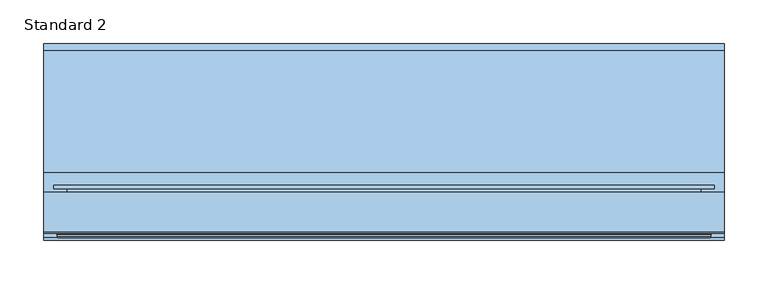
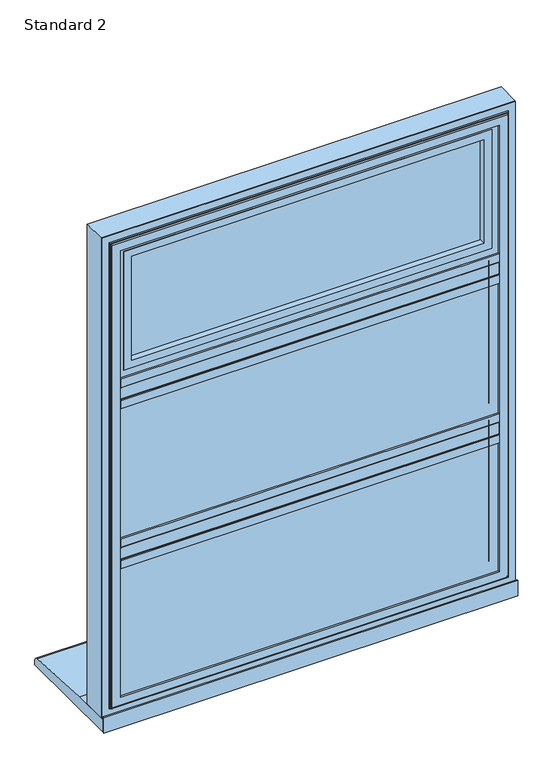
"""IFC4 building model written with IfcOpenShell, lengths in millimetres: window geometry, SMARTS_AlithermHeritage : Standard 2."""

from ifc_helpers import new_model, si_unit, point, frame, frame_2d, origin, place, context, project, spatial, polyline, circle_curve, ellipse_curve, trimmed, segment, composite_curve, outline, extrude, faceted_brep, source, transform, mapped, element, save
from ifc_brep_helpers import plane_surface, cylinder_surface, revolved_surface, advanced_brep


def standard_2_61d9b5e6(model_context):
    return source(origin(), model_context, "Body", "SolidModel", [
        extrude(outline(polyline([(372.3058544, 95.2798432), (372.3058544, 47.279476), (-372.3058544, 47.279476), (-372.3058544, 95.2798432), (372.3058544, 95.2798432)])), frame((0.0, 0.0, 939.6391878), z_axis=(0.0, 0.0, 1.0), x_axis=(1.0, 0.0, 0.0)), (0.0, 0.0, 1.0), 27.3882911),
        extrude(outline(composite_curve([segment(polyline([(47.279476, 924.3333333), (43.2798432, 924.3333333), (43.2798432, 940.3333333)]), True, "CONTINUOUS"), segment(trimmed(circle_curve(frame_2d((44.2798432, 940.3333333)), 1.0), [point((43.2798432, 940.3333333))], [point((44.2798432, 941.3333333))], False, "CARTESIAN"), True, "CONTINUOUS"), segment(polyline([(44.2798432, 941.3333333), (45.7798432, 941.3333333), (45.7798432, 965.3333333), (44.2798432, 965.3333333)]), True, "CONTINUOUS"), segment(trimmed(circle_curve(frame_2d((44.2798432, 966.3333333)), 1.0), [point((44.2798432, 965.3333333))], [point((43.2798432, 966.3333333))], False, "CARTESIAN"), True, "CONTINUOUS"), segment(polyline([(43.2798432, 966.3333333), (43.2798432, 982.3333333), (47.279476, 982.3333333), (47.279476, 924.3333333)]), True, "CONTINUOUS")], self_intersect=False)), frame((-357.0, 0.0, 0.0), z_axis=(1.0, 0.0, 0.0), x_axis=(0.0, 1.0, 0.0)), (0.0, 0.0, 1.0), 714.0),
        extrude(outline(polyline([(372.3058544, 95.2798432), (372.3058544, 47.279476), (-372.3058544, 47.279476), (-372.3058544, 95.2798432), (372.3058544, 95.2798432)])), frame((0.0, 0.0, 1257.9725211), z_axis=(0.0, 0.0, 1.0), x_axis=(1.0, 0.0, 0.0)), (0.0, 0.0, 1.0), 27.3882911),
        extrude(outline(composite_curve([segment(polyline([(47.279476, 1242.6666667), (43.2798432, 1242.6666667), (43.2798432, 1258.6666667)]), True, "CONTINUOUS"), segment(trimmed(circle_curve(frame_2d((44.2798432, 1258.6666667)), 1.0), [point((43.2798432, 1258.6666667))], [point((44.2798432, 1259.6666667))], False, "CARTESIAN"), True, "CONTINUOUS"), segment(polyline([(44.2798432, 1259.6666667), (45.7798432, 1259.6666667), (45.7798432, 1283.6666667), (44.2798432, 1283.6666667)]), True, "CONTINUOUS"), segment(trimmed(circle_curve(frame_2d((44.2798432, 1284.6666667)), 1.0), [point((44.2798432, 1283.6666667))], [point((43.2798432, 1284.6666667))], False, "CARTESIAN"), True, "CONTINUOUS"), segment(polyline([(43.2798432, 1284.6666667), (43.2798432, 1300.6666667), (47.279476, 1300.6666667), (47.279476, 1242.6666667)]), True, "CONTINUOUS")], self_intersect=False)), frame((-357.0, 0.0, 0.0), z_axis=(1.0, 0.0, 0.0), x_axis=(0.0, 1.0, 0.0)), (0.0, 0.0, 1.0), 714.0),
        extrude(outline(polyline([(-367.0, 75.2798432), (367.0, 75.2798432), (367.0, 71.2798432), (-367.0, 71.2798432), (-367.0, 75.2798432)])), frame((0.0, 0.0, 658.0), z_axis=(0.0, 0.0, 1.0), x_axis=(1.0, 0.0, 0.0)), (0.0, 0.0, 1.0), 276.3333333),
        extrude(outline(polyline([(-367.0, 55.2798432), (367.0, 55.2798432), (367.0, 51.2798432), (-367.0, 51.2798432), (-367.0, 55.2798432)])), frame((0.0, 0.0, 658.0), z_axis=(0.0, 0.0, 1.0), x_axis=(1.0, 0.0, 0.0)), (0.0, 0.0, 1.0), 276.3333333),
        extrude(outline(polyline([(934.3333333, -367.0), (658.0, -367.0), (658.0, 367.0), (934.3333333, 367.0), (934.3333333, -367.0)]), holes=[polyline([(924.3333333, 357.0), (668.0, 357.0), (668.0, -357.0), (924.3333333, -357.0), (924.3333333, 357.0)])]), frame((0.0, 55.2798432, 0.0), z_axis=(0.0, 1.0, 0.0), x_axis=(0.0, 0.0, 1.0)), (0.0, 0.0, 1.0), 16.0),
        faceted_brep([(366.8148849, 95.2798432, 934.1482182), (357.0, 78.2798098, 924.3333333), (-357.0, 78.2798098, 924.3333333), (-366.8148849, 95.2798432, 934.1482182), (372.3702676, 78.2798098, 939.7036009), (372.3702676, 95.2798432, 939.7036009), (-372.3702676, 95.2798432, 939.7036009), (-372.3702676, 78.2798098, 939.7036009), (-372.3702676, 78.2798098, 652.6297324), (-372.3702676, 95.2798432, 652.6297324), (372.3702676, 95.2798432, 652.6297324), (372.3702676, 78.2798098, 652.6297324), (-366.8148849, 95.2798432, 658.1851151), (366.8148849, 95.2798432, 658.1851151), (357.0, 78.2798098, 668.0), (-357.0, 78.2798098, 668.0)], [[[0, 1, 2, 3]], [[4, 5, 6, 7]], [[8, 9, 10, 11]], [[5, 10, 9, 6], [3, 12, 13, 0]], [[7, 8, 11, 4], [1, 14, 15, 2]], [[3, 2, 15, 12]], [[7, 6, 9, 8]], [[12, 15, 14, 13]], [[13, 14, 1, 0]], [[11, 10, 5, 4]]]),
        extrude(outline(polyline([(-367.0, 75.2798432), (367.0, 75.2798432), (367.0, 71.2798432), (-367.0, 71.2798432), (-367.0, 75.2798432)])), frame((0.0, 0.0, 972.3333333), z_axis=(0.0, 0.0, 1.0), x_axis=(1.0, 0.0, 0.0)), (0.0, 0.0, 1.0), 280.3333333),
        extrude(outline(polyline([(-367.0, 55.2798432), (367.0, 55.2798432), (367.0, 51.2798432), (-367.0, 51.2798432), (-367.0, 55.2798432)])), frame((0.0, 0.0, 972.3333333), z_axis=(0.0, 0.0, 1.0), x_axis=(1.0, 0.0, 0.0)), (0.0, 0.0, 1.0), 280.3333333),
        extrude(outline(polyline([(1252.6666667, -367.0), (972.3333333, -367.0), (972.3333333, 367.0), (1252.6666667, 367.0), (1252.6666667, -367.0)]), holes=[polyline([(1242.6666667, 357.0), (982.3333333, 357.0), (982.3333333, -357.0), (1242.6666667, -357.0), (1242.6666667, 357.0)])]), frame((0.0, 55.2798432, 0.0), z_axis=(0.0, 1.0, 0.0), x_axis=(0.0, 0.0, 1.0)), (0.0, 0.0, 1.0), 16.0),
        faceted_brep([(366.8148849, 95.2798432, 1252.4815515), (357.0, 78.2798098, 1242.6666667), (-357.0, 78.2798098, 1242.6666667), (-366.8148849, 95.2798432, 1252.4815515), (372.3702676, 78.2798098, 1258.0369343), (372.3702676, 95.2798432, 1258.0369343), (-372.3702676, 95.2798432, 1258.0369343), (-372.3702676, 78.2798098, 1258.0369343), (-372.3702676, 78.2798098, 966.9630657), (-372.3702676, 95.2798432, 966.9630657), (372.3702676, 95.2798432, 966.9630657), (372.3702676, 78.2798098, 966.9630657), (-366.8148849, 95.2798432, 972.5184485), (366.8148849, 95.2798432, 972.5184485), (357.0, 78.2798098, 982.3333333), (-357.0, 78.2798098, 982.3333333)], [[[0, 1, 2, 3]], [[4, 5, 6, 7]], [[8, 9, 10, 11]], [[5, 10, 9, 6], [3, 12, 13, 0]], [[7, 8, 11, 4], [1, 14, 15, 2]], [[3, 2, 15, 12]], [[7, 6, 9, 8]], [[12, 15, 14, 13]], [[13, 14, 1, 0]], [[11, 10, 5, 4]]]),
        extrude(outline(polyline([(1590.0, 390.0), (1590.0, -390.0), (635.0, -390.0), (635.0, 390.0), (1590.0, 390.0)]), holes=[polyline([(652.7000182, 372.2999818), (652.7000182, -372.2999818), (1572.2999818, -372.2999818), (1572.2999818, 372.2999818), (652.7000182, 372.2999818)])]), frame((0.0, 50.279857, 0.0), z_axis=(0.0, 1.0, 0.0), x_axis=(0.0, 0.0, 1.0)), (0.0, 0.0, 1.0), 44.9999962),
        advanced_brep(
        [(357.0, 43.2798432, 1557.0), (357.0, 47.2798432, 1557.0), (357.0, 47.2798432, 668.0), (357.0, 43.2798432, 668.0), (390.0, 50.279857, 1590.0), (390.0, 48.279857, 1590.0), (390.0, 48.279857, 635.0), (390.0, 50.279857, 635.0), (372.4999818, 43.2798432, 1572.4999818), (-372.4999818, 43.2798432, 1572.4999818), (-372.4999818, 43.2798432, 652.5000182), (372.4999818, 43.2798432, 652.5000182), (-357.0, 43.2798432, 668.0), (-357.0, 43.2798432, 1557.0), (-390.0, 50.279857, 1590.0), (-390.0, 48.279857, 1590.0), (-390.0, 50.279857, 635.0), (372.2999818, 50.279857, 1572.2999818), (-372.2999818, 50.279857, 1572.2999818), (-372.2999818, 50.279857, 652.7000182), (372.2999818, 50.279857, 652.7000182), (-357.0, 47.2798432, 1557.0), (-357.0, 47.2798432, 668.0), (-390.0, 48.279857, 635.0), (-372.2999818, 47.2798432, 1572.2999818), (372.2999818, 47.2798432, 1572.2999818), (372.2999818, 47.2798432, 652.7000182), (374.4999818, 46.779857, 650.5000182), (374.4999818, 45.2798432, 650.5000182), (-374.4999818, 45.2798432, 650.5000182), (-374.4999818, 46.779857, 650.5000182), (374.4999818, 46.779857, 1574.4999818), (374.4999818, 45.2798432, 1574.4999818), (-372.2999818, 47.2798432, 652.7000182), (-374.4999818, 45.2798432, 1574.4999818), (-374.4999818, 46.779857, 1574.4999818), (375.9999818, 48.279857, 1575.9999818), (375.9999818, 48.279857, 649.0000182), (-375.9999818, 48.279857, 649.0000182), (-375.9999818, 48.279857, 1575.9999818)],
        [
            (0, 1),
            (1, 2),
            (2, 3),
            (3, 0),
            (4, 5),
            (5, 6),
            (6, 7),
            (7, 4),
            (8, 9),
            (9, 10),
            (10, 11),
            (11, 8),
            (3, 12),
            (12, 13),
            (13, 0),
            (14, 15),
            (15, 5),
            (4, 14),
            (7, 16),
            (16, 14),
            (17, 18),
            (18, 19),
            (19, 20),
            (20, 17),
            (13, 21),
            (21, 1),
            (2, 22),
            (22, 12),
            (22, 21),
            (6, 23),
            (23, 16),
            (23, 15),
            (24, 18),
            (17, 25),
            (25, 24),
            (20, 26),
            (26, 25),
            (27, 28),
            (28, 29),
            (29, 30),
            (30, 27),
            (31, 32),
            (32, 28),
            (27, 31),
            (19, 33),
            (33, 26),
            (24, 33),
            (29, 34),
            (34, 35),
            (35, 30),
            (34, 32),
            (31, 35),
            (36, 31, ellipse_curve(frame((375.9999818, 46.779857, 1575.9999818), z_axis=(-0.7071067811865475, 0.0, 0.7071067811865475), x_axis=(-0.7071067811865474, 0.0, -0.7071067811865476)), 2.1213203, 1.5)),
            (27, 37, ellipse_curve(frame((375.9999818, 46.779857, 649.0000182), z_axis=(-0.7071067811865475, 0.0, -0.7071067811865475), x_axis=(0.7071067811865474, 0.0, -0.7071067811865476)), 2.1213203, 1.5)),
            (37, 36),
            (30, 38, ellipse_curve(frame((-375.9999818, 46.779857, 649.0000182), z_axis=(-0.7071067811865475, 0.0, 0.7071067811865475), x_axis=(-0.7071067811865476, 0.0, -0.7071067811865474)), 2.1213203, 1.5)),
            (38, 37),
            (35, 39, ellipse_curve(frame((-375.9999818, 46.779857, 1575.9999818), z_axis=(0.7071067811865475, 0.0, 0.7071067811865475), x_axis=(-0.7071067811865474, 0.0, 0.7071067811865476)), 2.1213203, 1.5)),
            (39, 38),
            (36, 39),
            (32, 8, ellipse_curve(frame((372.4999818, 45.2798432, 1572.4999818), z_axis=(0.7071067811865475, 0.0, -0.7071067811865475), x_axis=(0.7071067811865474, 0.0, 0.7071067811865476)), 2.8284271, 2.0)),
            (11, 28, ellipse_curve(frame((372.4999818, 45.2798432, 652.5000182), z_axis=(0.7071067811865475, 0.0, 0.7071067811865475), x_axis=(-0.7071067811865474, 0.0, 0.7071067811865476)), 2.8284271, 2.0)),
            (10, 29, ellipse_curve(frame((-372.4999818, 45.2798432, 652.5000182), z_axis=(0.7071067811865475, 0.0, -0.7071067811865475), x_axis=(0.7071067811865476, 0.0, 0.7071067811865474)), 2.8284271, 2.0)),
            (9, 34, ellipse_curve(frame((-372.4999818, 45.2798432, 1572.4999818), z_axis=(-0.7071067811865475, 0.0, -0.7071067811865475), x_axis=(0.7071067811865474, 0.0, -0.7071067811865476)), 2.8284271, 2.0)),
        ],
        [
            plane_surface(frame((357.0, 47.2798432, 1557.0), z_axis=(-1.0, 0.0, 0.0), x_axis=(0.0, 0.0, -1.0))),
            plane_surface(frame((390.0, 48.279857, 1590.0), z_axis=(1.0, 0.0, 0.0), x_axis=(0.0, 0.0, -1.0))),
            plane_surface(frame((-357.0, 43.2798432, 1557.0), z_axis=(0.0, -1.0, 0.0), x_axis=(1.0, 0.0, 0.0))),
            plane_surface(frame((-390.0, 48.279857, 1590.0), z_axis=(0.0, 0.0, 1.0), x_axis=(1.0, 0.0, 0.0))),
            plane_surface(frame((-390.0, 50.279857, 1590.0), z_axis=(0.0, 1.0, 0.0), x_axis=(1.0, 0.0, 0.0))),
            plane_surface(frame((-357.0, 47.2798432, 1557.0), z_axis=(0.0, 0.0, -1.0), x_axis=(1.0, 0.0, 0.0))),
            plane_surface(frame((357.0, 47.2798432, 668.0), z_axis=(0.0, 0.0, 1.0), x_axis=(-1.0, 0.0, 0.0))),
            plane_surface(frame((-357.0, 47.2798432, 668.0), z_axis=(1.0, 0.0, 0.0), x_axis=(0.0, 0.0, 1.0))),
            plane_surface(frame((390.0, 48.279857, 635.0), z_axis=(0.0, 0.0, -1.0), x_axis=(-1.0, 0.0, 0.0))),
            plane_surface(frame((-390.0, 48.279857, 635.0), z_axis=(-1.0, 0.0, 0.0), x_axis=(0.0, 0.0, 1.0))),
            plane_surface(frame((-372.2999818, 50.279857, 1572.2999818), z_axis=(0.0, 0.0, -1.0), x_axis=(1.0, 0.0, 0.0))),
            plane_surface(frame((372.2999818, 50.279857, 1572.2999818), z_axis=(-1.0, 0.0, 0.0), x_axis=(0.0, 0.0, -1.0))),
            plane_surface(frame((374.4999818, 45.2798432, 650.5000182), z_axis=(0.0, 0.0, -1.0), x_axis=(-1.0, 0.0, 0.0))),
            plane_surface(frame((374.4999818, 45.2798432, 1574.4999818), z_axis=(1.0, 0.0, 0.0), x_axis=(0.0, 0.0, -1.0))),
            plane_surface(frame((372.2999818, 50.279857, 652.7000182), z_axis=(0.0, 0.0, 1.0), x_axis=(-1.0, 0.0, 0.0))),
            plane_surface(frame((-372.2999818, 50.279857, 652.7000182), z_axis=(1.0, 0.0, 0.0), x_axis=(0.0, 0.0, 1.0))),
            plane_surface(frame((-374.4999818, 45.2798432, 650.5000182), z_axis=(-1.0, 0.0, 0.0), x_axis=(0.0, 0.0, 1.0))),
            plane_surface(frame((-372.2999818, 47.2798432, 1572.2999818), z_axis=(0.0, 1.0, 0.0), x_axis=(1.0, 0.0, 0.0))),
            plane_surface(frame((-374.4999818, 45.2798432, 1574.4999818), z_axis=(0.0, 0.0, 1.0), x_axis=(1.0, 0.0, 0.0))),
            revolved_surface(polyline([(374.4999818, 46.779857, 647.5000182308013), (374.4999818, 46.779857, 1577.4999817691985)]), (375.9999818, 46.779857, 1590.0), (0.0, 0.0, -1.0)),
            revolved_surface(polyline([(-377.4999817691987, 46.779857, 650.5000182), (377.49998176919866, 46.779857, 650.5000182)]), (390.0, 46.779857, 649.0000182), (-1.0, 0.0, 0.0)),
            revolved_surface(polyline([(-374.4999818, 46.779857, 1577.4999817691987), (-374.4999818, 46.779857, 647.5000182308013)]), (-375.9999818, 46.779857, 635.0), (0.0, 0.0, 1.0)),
            revolved_surface(polyline([(377.4999817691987, 46.779857, 1574.4999818), (-377.49998176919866, 46.779857, 1574.4999818)]), (-390.0, 46.779857, 1575.9999818), (1.0, 0.0, 0.0)),
            plane_surface(frame((-375.9999818, 48.279857, 1575.9999818), z_axis=(0.0, -1.0, 0.0), x_axis=(1.0, 0.0, 0.0))),
            cylinder_surface(frame((372.4999818, 45.2798432, 1590.0), z_axis=(0.0, 0.0, 1.0), x_axis=(-1.0, 0.0, 0.0)), 2.0),
            cylinder_surface(frame((390.0, 45.2798432, 652.5000182), z_axis=(1.0, 0.0, 0.0), x_axis=(0.0, 0.0, 1.0)), 2.0),
            cylinder_surface(frame((-372.4999818, 45.2798432, 635.0), z_axis=(0.0, 0.0, -1.0), x_axis=(1.0, 0.0, 0.0)), 2.0),
            cylinder_surface(frame((-390.0, 45.2798432, 1572.4999818), z_axis=(-1.0, 0.0, 0.0), x_axis=(0.0, 0.0, -1.0)), 2.0),
        ],
        [
            (0, [[1, 2, 3, 4]]),
            (1, [[5, 6, 7, 8]]),
            (2, [[9, 10, 11, 12], [13, 14, 15, -4]]),
            (3, [[16, 17, -5, 18]]),
            (4, [[19, 20, -18, -8], [21, 22, 23, 24]]),
            (5, [[25, 26, -1, -15]]),
            (6, [[-3, 27, 28, -13]]),
            (7, [[-28, 29, -25, -14]]),
            (8, [[-7, 30, 31, -19]]),
            (9, [[-31, 32, -16, -20]]),
            (10, [[33, -21, 34, 35]]),
            (11, [[-34, -24, 36, 37]]),
            (12, [[38, 39, 40, 41]]),
            (13, [[42, 43, -38, 44]]),
            (14, [[-36, -23, 45, 46]]),
            (15, [[-45, -22, -33, 47]]),
            (16, [[-40, 48, 49, 50]]),
            (17, [[-46, -47, -35, -37], [-26, -29, -27, -2]]),
            (18, [[-49, 51, -42, 52]]),
            (19, [[53, -44, 54, 55]]),
            (20, [[-54, -41, 56, 57]]),
            (21, [[-56, -50, 58, 59]]),
            (22, [[-58, -52, -53, 60]]),
            (23, [[-17, -32, -30, -6], [-57, -59, -60, -55]]),
            (24, [[61, -12, 62, -43]]),
            (25, [[-62, -11, 63, -39]]),
            (26, [[-63, -10, 64, -48]]),
            (27, [[-64, -9, -61, -51]]),
        ],
    ),
        extrude(outline(polyline([(-343.5, 89.2798432), (343.5, 89.2798432), (343.5, 85.2798432), (-343.5, 85.2798432), (-343.5, 89.2798432)])), frame((0.0, 0.0, 1314.1666667), z_axis=(0.0, 0.0, 1.0), x_axis=(1.0, 0.0, 0.0)), (0.0, 0.0, 1.0), 229.3333333),
        extrude(outline(polyline([(-343.5, 69.2798432), (343.5, 69.2798432), (343.5, 65.2798432), (-343.5, 65.2798432), (-343.5, 69.2798432)])), frame((0.0, 0.0, 1314.1666667), z_axis=(0.0, 0.0, 1.0), x_axis=(1.0, 0.0, 0.0)), (0.0, 0.0, 1.0), 229.3333333),
        extrude(outline(polyline([(1543.5, -343.5), (1314.1666667, -343.5), (1314.1666667, 343.5), (1543.5, 343.5), (1543.5, -343.5)]), holes=[polyline([(1533.5, 333.5), (1324.1666667, 333.5), (1324.1666667, -333.5), (1533.5, -333.5), (1533.5, 333.5)])]), frame((0.0, 69.2798432, 0.0), z_axis=(0.0, 1.0, 0.0), x_axis=(0.0, 0.0, 1.0)), (0.0, 0.0, 1.0), 16.0),
        extrude(outline(polyline([(1547.0052956, -347.0052956), (1310.661371, -347.0052956), (1310.661371, 347.0052956), (1547.0052956, 347.0052956), (1547.0052956, -347.0052956)]), holes=[polyline([(1532.0, 332.0), (1325.6666667, 332.0), (1325.6666667, -332.0), (1532.0, -332.0), (1532.0, 332.0)])]), frame((0.0, 51.2798432, 0.0), z_axis=(0.0, 1.0, 0.0), x_axis=(0.0, 0.0, 1.0)), (0.0, 0.0, 1.0), 11.3),
        extrude(outline(polyline([(1295.0214709, -362.6451958), (1295.0214709, 362.6451958), (1562.6451958, 362.6451958), (1562.6451958, -362.6451958), (1295.0214709, -362.6451958)]), holes=[polyline([(1547.0, -347.0), (1547.0, 347.0), (1310.6666667, 347.0), (1310.6666667, -347.0), (1547.0, -347.0)])]), frame((0.0, 51.2798432, 0.0), z_axis=(0.0, 1.0, 0.0), x_axis=(0.0, 0.0, 1.0)), (0.0, 0.0, 1.0), 41.6),
        advanced_brep(
        [(-332.0, 98.0798432, 1532.0), (-332.0, 92.8798432, 1532.0), (-332.0, 92.8798432, 1325.6666667), (-332.0, 98.0798432, 1325.6666667), (332.0, 92.8798432, 1325.6666667), (332.0, 98.0798432, 1325.6666667), (332.0, 92.8798432, 1532.0), (332.0, 98.0798432, 1532.0), (-378.2, 99.2798432, 1578.2), (-378.2, 103.2798432, 1578.2), (-378.2, 103.2798432, 1279.4666667), (-378.2, 99.2798432, 1279.4666667), (378.2, 103.2798432, 1279.4666667), (378.2, 99.2798432, 1279.4666667), (378.2, 103.2798432, 1578.2), (378.2, 99.2798432, 1578.2), (-363.1467657, 99.2798432, 1563.1467657), (363.1467657, 99.2798432, 1563.1467657), (363.1467657, 99.2798432, 1294.5199009), (-363.1467657, 99.2798432, 1294.5199009), (-349.2, 103.2798432, 1308.4666667), (349.2, 103.2798432, 1308.4666667), (349.2, 103.2798432, 1549.2), (-349.2, 103.2798432, 1549.2), (-363.1467657, 92.8798432, 1563.1467657), (-363.1467657, 92.8798432, 1294.5199009), (363.1467657, 92.8798432, 1294.5199009), (363.1467657, 92.8798432, 1563.1467657), (-347.2, 101.2798432, 1547.2), (-347.2, 100.0798432, 1547.2), (-347.2, 100.0798432, 1310.4666667), (-347.2, 101.2798432, 1310.4666667), (-345.2, 98.0798432, 1545.2), (-345.2, 98.0798432, 1312.4666667), (347.2, 100.0798432, 1310.4666667), (347.2, 101.2798432, 1310.4666667), (345.2, 98.0798432, 1312.4666667), (347.2, 100.0798432, 1547.2), (347.2, 101.2798432, 1547.2), (345.2, 98.0798432, 1545.2)],
        [
            (0, 1),
            (1, 2),
            (2, 3),
            (3, 0),
            (2, 4),
            (4, 5),
            (5, 3),
            (4, 6),
            (6, 7),
            (7, 5),
            (6, 1),
            (0, 7),
            (8, 9),
            (9, 10),
            (10, 11),
            (11, 8),
            (10, 12),
            (12, 13),
            (13, 11),
            (12, 14),
            (14, 15),
            (15, 13),
            (15, 8),
            (16, 17),
            (17, 18),
            (18, 19),
            (19, 16),
            (14, 9),
            (20, 21),
            (21, 22),
            (22, 23),
            (23, 20),
            (24, 16),
            (19, 25),
            (25, 24),
            (18, 26),
            (26, 25),
            (17, 27),
            (27, 26),
            (27, 24),
            (28, 29),
            (29, 30),
            (30, 31),
            (31, 28),
            (29, 32, ellipse_curve(frame((-345.2, 100.0798432, 1545.2), z_axis=(0.7071067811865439, 0.0, 0.7071067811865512), x_axis=(0.7071067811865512, 0.0, -0.7071067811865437)), 2.8284271, 2.0)),
            (32, 33),
            (33, 30, ellipse_curve(frame((-345.2, 100.0798432, 1312.4666667), z_axis=(0.7071067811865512, 0.0, -0.7071067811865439), x_axis=(-0.7071067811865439, 0.0, -0.707106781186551)), 2.8284271, 2.0)),
            (30, 34),
            (34, 35),
            (35, 31),
            (33, 36),
            (36, 34, ellipse_curve(frame((345.2, 100.0798432, 1312.4666667), z_axis=(0.7071067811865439, 0.0, 0.7071067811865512), x_axis=(0.707106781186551, 0.0, -0.7071067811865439)), 2.8284271, 2.0)),
            (34, 37),
            (37, 38),
            (38, 35),
            (36, 39),
            (39, 37, ellipse_curve(frame((345.2, 100.0798432, 1545.2), z_axis=(-0.7071067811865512, 0.0, 0.7071067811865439), x_axis=(0.7071067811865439, 0.0, 0.707106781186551)), 2.8284271, 2.0)),
            (32, 39),
            (37, 29),
            (28, 38),
            (23, 28, ellipse_curve(frame((-349.2, 101.2798432, 1549.2), z_axis=(-0.7071067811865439, 0.0, -0.7071067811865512), x_axis=(-0.7071067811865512, 0.0, 0.7071067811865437)), 2.8284271, 2.0)),
            (31, 20, ellipse_curve(frame((-349.2, 101.2798432, 1308.4666667), z_axis=(-0.7071067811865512, 0.0, 0.7071067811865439), x_axis=(0.7071067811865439, 0.0, 0.707106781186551)), 2.8284271, 2.0)),
            (35, 21, ellipse_curve(frame((349.2, 101.2798432, 1308.4666667), z_axis=(-0.7071067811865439, 0.0, -0.7071067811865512), x_axis=(-0.707106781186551, 0.0, 0.7071067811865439)), 2.8284271, 2.0)),
            (38, 22, ellipse_curve(frame((349.2, 101.2798432, 1549.2), z_axis=(0.7071067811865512, 0.0, -0.7071067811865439), x_axis=(-0.7071067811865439, 0.0, -0.707106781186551)), 2.8284271, 2.0)),
        ],
        [
            plane_surface(frame((-332.0, 92.8798432, 1532.0), z_axis=(1.0, 0.0, 0.0), x_axis=(0.0, 0.0, -1.0))),
            plane_surface(frame((-332.0, 92.8798432, 1325.6666667), z_axis=(0.0, 0.0, 1.0), x_axis=(1.0, 0.0, 0.0))),
            plane_surface(frame((332.0, 92.8798432, 1325.6666667), z_axis=(-1.0, 0.0, 0.0), x_axis=(0.0, 0.0, 1.0))),
            plane_surface(frame((332.0, 92.8798432, 1532.0), z_axis=(0.0, 0.0, -1.0), x_axis=(-1.0, 0.0, 0.0))),
            plane_surface(frame((-378.2, 103.2798432, 1578.2), z_axis=(-1.0, 0.0, 0.0), x_axis=(0.0, 0.0, -1.0))),
            plane_surface(frame((-378.2, 103.2798432, 1279.4666667), z_axis=(0.0, 0.0, -1.0), x_axis=(1.0, 0.0, 0.0))),
            plane_surface(frame((378.2, 103.2798432, 1279.4666667), z_axis=(1.0, 0.0, 0.0), x_axis=(0.0, 0.0, 1.0))),
            plane_surface(frame((378.2, 99.2798432, 1578.2), z_axis=(0.0, -1.0, 0.0), x_axis=(-1.0, 0.0, 0.0))),
            plane_surface(frame((378.2, 103.2798432, 1578.2), z_axis=(0.0, 0.0, 1.0), x_axis=(-1.0, 0.0, 0.0))),
            plane_surface(frame((349.2, 103.2798432, 1549.2), z_axis=(0.0, 1.0, 0.0), x_axis=(-1.0, 0.0, 0.0))),
            plane_surface(frame((-363.1467657, 99.2798432, 1563.1467657), z_axis=(-1.0, 0.0, 0.0), x_axis=(0.0, 0.0, -1.0))),
            plane_surface(frame((-363.1467657, 99.2798432, 1294.5199009), z_axis=(0.0, 0.0, -1.0), x_axis=(1.0, 0.0, 0.0))),
            plane_surface(frame((363.1467657, 99.2798432, 1294.5199009), z_axis=(1.0, 0.0, 0.0), x_axis=(0.0, 0.0, 1.0))),
            plane_surface(frame((363.1467657, 92.8798432, 1563.1467657), z_axis=(0.0, -1.0, 0.0), x_axis=(-1.0, 0.0, 0.0))),
            plane_surface(frame((363.1467657, 99.2798432, 1563.1467657), z_axis=(0.0, 0.0, 1.0), x_axis=(-1.0, 0.0, 0.0))),
            plane_surface(frame((-347.2, 100.0798432, 1547.2), z_axis=(1.0, 0.0, 0.0), x_axis=(0.0, 0.0, -1.0))),
            revolved_surface(polyline([(-347.2, 100.0798432, 1310.4666667), (-347.2, 100.0798432, 1547.2)]), (-345.2, 100.0798432, 1557.0), (0.0, 0.0, -1.0)),
            plane_surface(frame((-347.2, 100.0798432, 1310.4666667), z_axis=(0.0, 0.0, 1.0), x_axis=(1.0, 0.0, 0.0))),
            revolved_surface(polyline([(347.20000000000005, 100.0798432, 1310.4666667), (-347.2, 100.0798432, 1310.4666667)]), (-357.0, 100.0798432, 1312.4666667), (1.0, 0.0, 0.0)),
            plane_surface(frame((347.2, 100.0798432, 1310.4666667), z_axis=(-1.0, 0.0, 0.0), x_axis=(0.0, 0.0, 1.0))),
            revolved_surface(polyline([(347.2, 100.0798432, 1547.2), (347.2, 100.0798432, 1310.4666667)]), (345.2, 100.0798432, 1300.6666667), (0.0, 0.0, 1.0)),
            plane_surface(frame((332.0, 98.0798432, 1532.0), z_axis=(0.0, 1.0, 0.0), x_axis=(-1.0, 0.0, 0.0))),
            plane_surface(frame((347.2, 100.0798432, 1547.2), z_axis=(0.0, 0.0, -1.0), x_axis=(-1.0, 0.0, 0.0))),
            revolved_surface(polyline([(-347.20000000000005, 100.0798432, 1547.2), (347.2, 100.0798432, 1547.2)]), (357.0, 100.0798432, 1545.2), (-1.0, 0.0, 0.0)),
            cylinder_surface(frame((-349.2, 101.2798432, 1557.0), z_axis=(0.0, 0.0, 1.0), x_axis=(-1.0, 0.0, 0.0)), 2.0),
            cylinder_surface(frame((-357.0, 101.2798432, 1308.4666667), z_axis=(-1.0, 0.0, 0.0), x_axis=(0.0, 0.0, -1.0)), 2.0),
            cylinder_surface(frame((349.2, 101.2798432, 1300.6666667), z_axis=(0.0, 0.0, -1.0), x_axis=(1.0, 0.0, 0.0)), 2.0),
            cylinder_surface(frame((357.0, 101.2798432, 1549.2), z_axis=(1.0, 0.0, 0.0), x_axis=(0.0, 0.0, 1.0)), 2.0),
        ],
        [
            (0, [[1, 2, 3, 4]]),
            (1, [[-3, 5, 6, 7]]),
            (2, [[-6, 8, 9, 10]]),
            (3, [[-9, 11, -1, 12]]),
            (4, [[13, 14, 15, 16]]),
            (5, [[-15, 17, 18, 19]]),
            (6, [[-18, 20, 21, 22]]),
            (7, [[-19, -22, 23, -16], [24, 25, 26, 27]]),
            (8, [[-21, 28, -13, -23]]),
            (9, [[-28, -20, -17, -14], [29, 30, 31, 32]]),
            (10, [[33, -27, 34, 35]]),
            (11, [[-34, -26, 36, 37]]),
            (12, [[-36, -25, 38, 39]]),
            (13, [[-37, -39, 40, -35], [-11, -8, -5, -2]]),
            (14, [[-38, -24, -33, -40]]),
            (15, [[41, 42, 43, 44]]),
            (16, [[45, 46, 47, -42]]),
            (17, [[-43, 48, 49, 50]]),
            (18, [[-47, 51, 52, -48]]),
            (19, [[-49, 53, 54, 55]]),
            (20, [[-52, 56, 57, -53]]),
            (21, [[58, -56, -51, -46], [-7, -10, -12, -4]]),
            (22, [[-54, 59, -41, 60]]),
            (23, [[-57, -58, -45, -59]]),
            (24, [[61, -44, 62, -32]]),
            (25, [[-62, -50, 63, -29]]),
            (26, [[-63, -55, 64, -30]]),
            (27, [[-64, -60, -61, -31]]),
        ],
    ),
        extrude(outline(polyline([(390.0, 43.2798432), (390.0, 40.7798432), (-390.0, 40.7798432), (-390.0, 43.2798432), (390.0, 43.2798432)])), frame((0.0, 0.0, 610.0), z_axis=(0.0, 0.0, 1.0), x_axis=(1.0, 0.0, 0.0)), (0.0, 0.0, 1.0), 31.0),
        extrude(outline(composite_curve([segment(polyline([(265.7798432, 610.0), (43.2798432, 610.0), (43.2798432, 635.0), (118.7798432, 635.0), (258.4770891, 625.9276664)]), True, "CONTINUOUS"), segment(trimmed(circle_curve(frame_2d((257.7798432, 617.9581088)), 8.0), [point((258.4770891, 625.9276664))], [point((265.7798432, 617.9581088))], False, "CARTESIAN"), True, "CONTINUOUS"), segment(polyline([(265.7798432, 617.9581088), (265.7798432, 610.0)]), True, "CONTINUOUS")], self_intersect=False)), frame((-390.0, 0.0, 0.0), z_axis=(1.0, 0.0, 0.0), x_axis=(0.0, 1.0, 0.0)), (0.0, 0.0, 1.0), 780.0),
    ])


if __name__ == "__main__":
    model = new_model("IFC4")
    model_context = context("Model", 3, world=origin())
    ifc_project = project(units=[si_unit("LENGTHUNIT", "METRE", prefix="MILLI")], contexts=[model_context])
    site = spatial("IfcSite", under=ifc_project)
    building = spatial("IfcBuilding", under=site)
    placement = place(None, origin())
    standard_2_shape = standard_2_61d9b5e6(model_context)
    element("IfcWindow", 1, ObjectType="SMARTS_AlithermHeritage : Standard 2", at=placement, inside=building, context=model_context, shape_type="MappedRepresentation", body=[
        mapped(standard_2_shape, transform((0.0, 0.0, 0.0), x_axis=(1.0, 0.0, 0.0), y_axis=(0.0, 1.0, 0.0), z_axis=(0.0, 0.0, 1.0))),
    ])
    save(model, "model.ifc")
